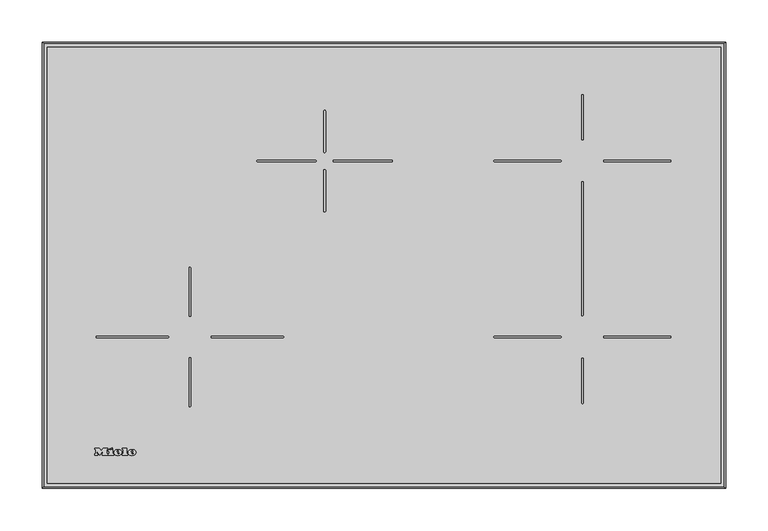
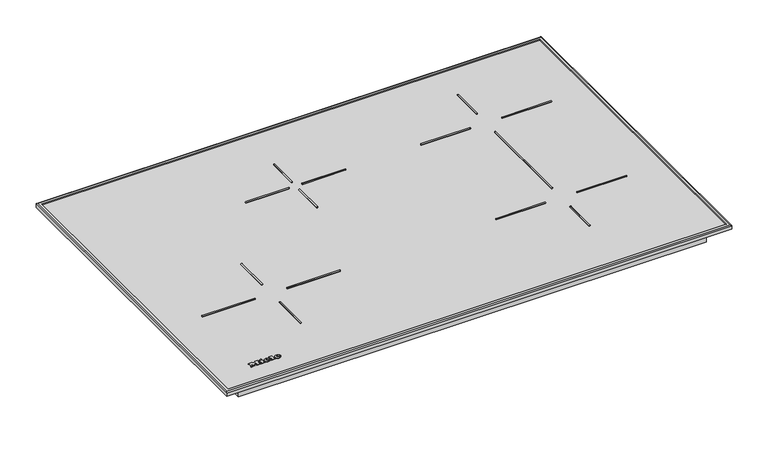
"""IFC4 building model written with IfcOpenShell, lengths in millimetres: proxy geometry, 12434420_TR_KM7373FR : 26737310_TR_12434420_KM7373FR."""

from ifc_helpers import new_model, si_unit, point, frame, frame_2d, origin, origin_with_axes, place, context, project, spatial, polyline, circle_curve, ellipse_curve, trimmed, segment, composite_curve, outline, extrude, source, transform, mapped, element, save
from ifc_brep_helpers import plane_surface, cylinder_surface, revolved_surface, extruded_surface, advanced_brep


def specialty_equipment_a5883740(model_context):
    return source(origin(), model_context, "Body", "SolidModel", [
        advanced_brep(
        [(-297.911984, 41.066, 5.0000007), (-297.911984, 41.874, 5.0000007), (-292.559984, 41.874, 5.0000007), (-301.871984, 41.874, 5.0000007), (-299.671984, 39.17, 5.0000007), (-292.695984, 41.066, 5.0000007), (-295.111984, 41.066, 5.0000007), (-297.015984, 40.17, 5.0000007), (-297.911984, 42.898, 5.0000007), (-297.911984, 43.77, 5.0000007), (-296.543984, 43.77, 5.0000007), (-296.543984, 42.898, 5.0000007), (-297.911984, 41.066, 4.0000007), (-297.015984, 40.17, 4.0000007), (-295.111984, 41.066, 4.0000007), (-292.695984, 41.066, 4.0000007), (-299.671984, 39.17, 4.0000007), (-301.871984, 41.874, 4.0000007), (-292.559984, 41.874, 4.0000007), (-297.911984, 41.874, 4.0000007), (-297.911984, 42.898, 4.0000007), (-296.543984, 42.898, 4.0000007), (-296.543984, 43.77, 4.0000007), (-297.911984, 43.77, 4.0000007)],
        [
            (0, 1),
            (1, 2),
            (2, 3, ellipse_curve(frame((-297.215984, 41.874, 5.0000007), z_axis=(0.0, 0.0, 1.0), x_axis=(-1.0, 0.0, 0.0)), 4.656, 3.848)),
            (3, 4, circle_curve(frame((-298.7759404, 42.146, 5.0000007), z_axis=(0.0, 0.0, 1.0), x_axis=(0.0, -1.0, 0.0)), 3.1079688)),
            (4, 5, circle_curve(frame((-297.3091904, 44.258, 5.0000007), z_axis=(0.0, 0.0, 1.0), x_axis=(0.0, -1.0, 0.0)), 5.6098607)),
            (5, 6),
            (6, 7, circle_curve(frame((-296.6249252, 41.81, 5.0000007), z_axis=(0.0, 0.0, -1.0), x_axis=(0.0, -1.0, 0.0)), 1.6859795)),
            (7, 0, circle_curve(frame((-297.015984, 41.066, 5.0000007), z_axis=(0.0, 0.0, -1.0), x_axis=(0.0, -1.0, 0.0)), 0.896)),
            (8, 9),
            (9, 10, circle_curve(frame((-297.227984, 43.77, 5.0000007), z_axis=(0.0, 0.0, -1.0), x_axis=(0.0, -1.0, 0.0)), 0.684)),
            (10, 11),
            (11, 8),
            (12, 13, circle_curve(frame((-297.015984, 41.066, 4.0000007), z_axis=(0.0, 0.0, 1.0), x_axis=(0.0, -1.0, 0.0)), 0.896)),
            (13, 14, circle_curve(frame((-296.6249252, 41.81, 4.0000007), z_axis=(0.0, 0.0, 1.0), x_axis=(0.0, -1.0, 0.0)), 1.6859795)),
            (14, 15),
            (15, 16, circle_curve(frame((-297.3091904, 44.258, 4.0000007), z_axis=(0.0, 0.0, -1.0), x_axis=(0.0, -1.0, 0.0)), 5.6098607)),
            (16, 17, circle_curve(frame((-298.7759404, 42.146, 4.0000007), z_axis=(0.0, 0.0, -1.0), x_axis=(0.0, -1.0, 0.0)), 3.1079688)),
            (17, 18, ellipse_curve(frame((-297.215984, 41.874, 4.0000007), z_axis=(0.0, 0.0, -1.0), x_axis=(-1.0, 0.0, 0.0)), 4.656, 3.848)),
            (18, 19),
            (19, 12),
            (20, 21),
            (21, 22),
            (22, 23, circle_curve(frame((-297.227984, 43.77, 4.0000007), z_axis=(0.0, 0.0, 1.0), x_axis=(0.0, -1.0, 0.0)), 0.684)),
            (23, 20),
            (0, 12),
            (19, 1),
            (18, 2),
            (5, 15),
            (14, 6),
            (17, 3),
            (13, 7),
            (16, 4),
            (8, 20),
            (23, 9),
            (22, 10),
            (21, 11),
        ],
        [
            plane_surface(frame((-297.911984, 41.874, 5.0000007), z_axis=(0.0, 0.0, 1.0), x_axis=(0.0, 1.0, 0.0))),
            plane_surface(frame((-297.911984, 41.874, 4.0000007), z_axis=(0.0, 0.0, -1.0), x_axis=(0.0, -1.0, 0.0))),
            plane_surface(frame((-297.911984, 41.066, 5.0000007), z_axis=(1.0, 0.0, 0.0), x_axis=(0.0, 0.0, -1.0))),
            plane_surface(frame((-297.911984, 41.874, 5.0000007), z_axis=(0.0, -1.0, 0.0), x_axis=(0.0, 0.0, -1.0))),
            plane_surface(frame((-292.695984, 41.066, 5.0000007), z_axis=(0.0, 1.0, 0.0), x_axis=(0.0, 0.0, -1.0))),
            extruded_surface(trimmed(ellipse_curve(frame((-297.215984, 41.874, 3.0000007), z_axis=(0.0, 0.0, 1.0), x_axis=(-1.0, 0.0, 0.0)), 4.656, 3.848), [point((-292.559984, 41.874, 3.0000007))], [point((-301.871984, 41.874, 3.0000007))], True, "CARTESIAN"), (0.0, 0.0, 1.0), 1.0),
            revolved_surface(polyline([(-296.6249252, 40.1240205, 4.0000007), (-296.6249252, 40.1240205, 5.0000007)]), (-296.6249252, 41.81, 4.0000007), (0.0, 0.0, -1.0)),
            revolved_surface(polyline([(-297.015984, 40.17, 4.0000007), (-297.015984, 40.17, 5.0000007)]), (-297.015984, 41.066, 4.0000007), (0.0, 0.0, -1.0)),
            cylinder_surface(frame((-298.7759404, 42.146, 4.0000007), z_axis=(0.0, 0.0, 1.0), x_axis=(0.0, -1.0, 0.0)), 3.1079688),
            cylinder_surface(frame((-297.3091904, 44.258, 4.0000007), z_axis=(0.0, 0.0, 1.0), x_axis=(0.0, -1.0, 0.0)), 5.6098607),
            plane_surface(frame((-297.911984, 42.898, 5.0000007), z_axis=(1.0, 0.0, 0.0), x_axis=(0.0, 0.0, -1.0))),
            revolved_surface(polyline([(-297.227984, 43.086000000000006, 4.0000007), (-297.227984, 43.086000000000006, 5.0000007)]), (-297.227984, 43.77, 4.0000007), (0.0, 0.0, -1.0)),
            plane_surface(frame((-296.543984, 43.77, 5.0000007), z_axis=(-1.0, 0.0, 0.0), x_axis=(0.0, 0.0, -1.0))),
            plane_surface(frame((-296.543984, 42.898, 5.0000007), z_axis=(0.0, 1.0, 0.0), x_axis=(0.0, 0.0, -1.0))),
        ],
        [
            (0, [[1, 2, 3, 4, 5, 6, 7, 8], [9, 10, 11, 12]]),
            (1, [[13, 14, 15, 16, 17, 18, 19, 20], [21, 22, 23, 24]]),
            (2, [[-1, 25, -20, 26]]),
            (3, [[-2, -26, -19, 27]]),
            (4, [[-6, 28, -15, 29]]),
            (5, [[-3, -27, -18, 30]]),
            (6, [[-7, -29, -14, 31]]),
            (7, [[-8, -31, -13, -25]]),
            (8, [[-4, -30, -17, 32]]),
            (9, [[-5, -32, -16, -28]]),
            (10, [[-9, 33, -24, 34]]),
            (11, [[-10, -34, -23, 35]]),
            (12, [[-11, -35, -22, 36]]),
            (13, [[-12, -36, -21, -33]]),
        ],
    ),
        advanced_brep(
        [(-314.607984, 41.066, 5.0000007), (-314.607984, 41.874, 5.0000007), (-309.255984, 41.874, 5.0000007), (-318.567984, 41.874, 5.0000007), (-316.367984, 39.17, 5.0000007), (-309.391984, 41.066, 5.0000007), (-311.807984, 41.066, 5.0000007), (-313.711984, 40.17, 5.0000007), (-314.607984, 42.898, 5.0000007), (-314.607984, 43.77, 5.0000007), (-313.239984, 43.77, 5.0000007), (-313.239984, 42.898, 5.0000007), (-314.607984, 41.066, 4.0000007), (-313.711984, 40.17, 4.0000007), (-311.807984, 41.066, 4.0000007), (-309.391984, 41.066, 4.0000007), (-316.367984, 39.17, 4.0000007), (-318.567984, 41.874, 4.0000007), (-309.255984, 41.874, 4.0000007), (-314.607984, 41.874, 4.0000007), (-314.607984, 42.898, 4.0000007), (-313.239984, 42.898, 4.0000007), (-313.239984, 43.77, 4.0000007), (-314.607984, 43.77, 4.0000007)],
        [
            (0, 1),
            (1, 2),
            (2, 3, ellipse_curve(frame((-313.911984, 41.874, 5.0000007), z_axis=(0.0, 0.0, 1.0), x_axis=(-1.0, 0.0, 0.0)), 4.656, 3.848)),
            (3, 4, circle_curve(frame((-315.4719404, 42.146, 5.0000007), z_axis=(0.0, 0.0, 1.0), x_axis=(0.0, -1.0, 0.0)), 3.1079688)),
            (4, 5, circle_curve(frame((-314.0051904, 44.258, 5.0000007), z_axis=(0.0, 0.0, 1.0), x_axis=(0.0, -1.0, 0.0)), 5.6098607)),
            (5, 6),
            (6, 7, circle_curve(frame((-313.3209252, 41.81, 5.0000007), z_axis=(0.0, 0.0, -1.0), x_axis=(0.0, -1.0, 0.0)), 1.6859795)),
            (7, 0, circle_curve(frame((-313.711984, 41.066, 5.0000007), z_axis=(0.0, 0.0, -1.0), x_axis=(0.0, -1.0, 0.0)), 0.896)),
            (8, 9),
            (9, 10, circle_curve(frame((-313.923984, 43.77, 5.0000007), z_axis=(0.0, 0.0, -1.0), x_axis=(0.0, -1.0, 0.0)), 0.684)),
            (10, 11),
            (11, 8),
            (12, 13, circle_curve(frame((-313.711984, 41.066, 4.0000007), z_axis=(0.0, 0.0, 1.0), x_axis=(0.0, -1.0, 0.0)), 0.896)),
            (13, 14, circle_curve(frame((-313.3209252, 41.81, 4.0000007), z_axis=(0.0, 0.0, 1.0), x_axis=(0.0, -1.0, 0.0)), 1.6859795)),
            (14, 15),
            (15, 16, circle_curve(frame((-314.0051904, 44.258, 4.0000007), z_axis=(0.0, 0.0, -1.0), x_axis=(0.0, -1.0, 0.0)), 5.6098607)),
            (16, 17, circle_curve(frame((-315.4719404, 42.146, 4.0000007), z_axis=(0.0, 0.0, -1.0), x_axis=(0.0, -1.0, 0.0)), 3.1079688)),
            (17, 18, ellipse_curve(frame((-313.911984, 41.874, 4.0000007), z_axis=(0.0, 0.0, -1.0), x_axis=(-1.0, 0.0, 0.0)), 4.656, 3.848)),
            (18, 19),
            (19, 12),
            (20, 21),
            (21, 22),
            (22, 23, circle_curve(frame((-313.923984, 43.77, 4.0000007), z_axis=(0.0, 0.0, 1.0), x_axis=(0.0, -1.0, 0.0)), 0.684)),
            (23, 20),
            (0, 12),
            (19, 1),
            (18, 2),
            (5, 15),
            (14, 6),
            (17, 3),
            (13, 7),
            (16, 4),
            (8, 20),
            (23, 9),
            (22, 10),
            (21, 11),
        ],
        [
            plane_surface(frame((-314.607984, 41.874, 5.0000007), z_axis=(0.0, 0.0, 1.0), x_axis=(0.0, 1.0, 0.0))),
            plane_surface(frame((-314.607984, 41.874, 4.0000007), z_axis=(0.0, 0.0, -1.0), x_axis=(0.0, -1.0, 0.0))),
            plane_surface(frame((-314.607984, 41.066, 5.0000007), z_axis=(1.0, 0.0, 0.0), x_axis=(0.0, 0.0, -1.0))),
            plane_surface(frame((-314.607984, 41.874, 5.0000007), z_axis=(0.0, -1.0, 0.0), x_axis=(0.0, 0.0, -1.0))),
            plane_surface(frame((-309.391984, 41.066, 5.0000007), z_axis=(0.0, 1.0, 0.0), x_axis=(0.0, 0.0, -1.0))),
            extruded_surface(trimmed(ellipse_curve(frame((-313.911984, 41.874, 3.0000007), z_axis=(0.0, 0.0, 1.0), x_axis=(-1.0, 0.0, 0.0)), 4.656, 3.848), [point((-309.255984, 41.874, 3.0000007))], [point((-318.567984, 41.874, 3.0000007))], True, "CARTESIAN"), (0.0, 0.0, 1.0), 1.0),
            revolved_surface(polyline([(-313.3209252, 40.1240205, 4.0000007), (-313.3209252, 40.1240205, 5.0000007)]), (-313.3209252, 41.81, 4.0000007), (0.0, 0.0, -1.0)),
            revolved_surface(polyline([(-313.711984, 40.17, 4.0000007), (-313.711984, 40.17, 5.0000007)]), (-313.711984, 41.066, 4.0000007), (0.0, 0.0, -1.0)),
            cylinder_surface(frame((-315.4719404, 42.146, 4.0000007), z_axis=(0.0, 0.0, 1.0), x_axis=(0.0, -1.0, 0.0)), 3.1079688),
            cylinder_surface(frame((-314.0051904, 44.258, 4.0000007), z_axis=(0.0, 0.0, 1.0), x_axis=(0.0, -1.0, 0.0)), 5.6098607),
            plane_surface(frame((-314.607984, 42.898, 5.0000007), z_axis=(1.0, 0.0, 0.0), x_axis=(0.0, 0.0, -1.0))),
            revolved_surface(polyline([(-313.923984, 43.086000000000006, 4.0000007), (-313.923984, 43.086000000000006, 5.0000007)]), (-313.923984, 43.77, 4.0000007), (0.0, 0.0, -1.0)),
            plane_surface(frame((-313.239984, 43.77, 5.0000007), z_axis=(-1.0, 0.0, 0.0), x_axis=(0.0, 0.0, -1.0))),
            plane_surface(frame((-313.239984, 42.898, 5.0000007), z_axis=(0.0, 1.0, 0.0), x_axis=(0.0, 0.0, -1.0))),
        ],
        [
            (0, [[1, 2, 3, 4, 5, 6, 7, 8], [9, 10, 11, 12]]),
            (1, [[13, 14, 15, 16, 17, 18, 19, 20], [21, 22, 23, 24]]),
            (2, [[-1, 25, -20, 26]]),
            (3, [[-2, -26, -19, 27]]),
            (4, [[-6, 28, -15, 29]]),
            (5, [[-3, -27, -18, 30]]),
            (6, [[-7, -29, -14, 31]]),
            (7, [[-8, -31, -13, -25]]),
            (8, [[-4, -30, -17, 32]]),
            (9, [[-5, -32, -16, -28]]),
            (10, [[-9, 33, -24, 34]]),
            (11, [[-10, -34, -23, 35]]),
            (12, [[-11, -35, -22, 36]]),
            (13, [[-12, -36, -21, -33]]),
        ],
    ),
        extrude(outline(polyline([(-323.351984, 46.698), (-320.631984, 47.962), (-320.031984, 46.666), (-322.743984, 45.402), (-323.351984, 46.698)])), frame((0.0, 0.0, 4.0000007), z_axis=(0.0, 0.0, 1.0), x_axis=(1.0, 0.0, 0.0)), (0.0, 0.0, 1.0), 1.0),
        extrude(outline(polyline([(-325.327984, 45.226), (-319.943984, 45.226), (-319.943984, 40.514), (-319.015984, 40.514), (-319.015984, 39.17), (-325.327984, 39.17), (-325.327984, 40.514), (-324.375984, 40.514), (-324.375984, 43.794), (-325.327984, 43.794), (-325.327984, 45.226)])), frame((0.0, 0.0, 4.0000007), z_axis=(0.0, 0.0, 1.0), x_axis=(1.0, 0.0, 0.0)), (0.0, 0.0, 1.0), 1.0),
        extrude(outline(polyline([(-308.807984, 45.866), (-308.807984, 47.17), (-303.303984, 47.17), (-303.303984, 40.514), (-302.319984, 40.514), (-302.319984, 39.17), (-308.807984, 39.17), (-308.807984, 40.514), (-307.847984, 40.514), (-307.847984, 45.866), (-308.807984, 45.866)])), frame((0.0, 0.0, 4.0000007), z_axis=(0.0, 0.0, 1.0), x_axis=(1.0, 0.0, 0.0)), (0.0, 0.0, 1.0), 1.0),
        extrude(outline(polyline([(-341.271984, 45.866), (-341.271984, 47.17), (-335.695984, 47.17), (-333.351984, 44.17), (-331.015984, 47.17), (-326.143984, 47.17), (-326.143984, 45.866), (-327.159984, 45.866), (-327.159984, 40.514), (-326.143984, 40.514), (-326.143984, 39.17), (-332.527984, 39.17), (-332.527984, 40.514), (-331.543984, 40.514), (-331.543984, 43.9852223), (-335.135984, 39.17), (-338.711984, 43.9171247), (-338.711984, 40.514), (-337.751984, 40.514), (-337.751984, 39.17), (-341.271984, 39.17), (-341.271984, 40.514), (-340.303984, 40.514), (-340.303984, 45.866), (-341.271984, 45.866)])), frame((0.0, 0.0, 4.0000007), z_axis=(0.0, 0.0, 1.0), x_axis=(1.0, 0.0, 0.0)), (0.0, 0.0, 1.0), 1.0),
        extrude(outline(composite_curve([segment(polyline([(-69.0, 375.0), (-69.0, 327.0)]), True, "CONTINUOUS"), segment(trimmed(circle_curve(frame_2d((-70.0, 327.0)), 1.0), [point((-69.0, 327.0))], [point((-71.0, 327.0))], False, "CARTESIAN"), True, "CONTINUOUS"), segment(polyline([(-71.0, 327.0), (-71.0, 375.0)]), True, "CONTINUOUS"), segment(trimmed(circle_curve(frame_2d((-70.0, 375.0)), 1.0), [point((-71.0, 375.0))], [point((-69.0, 375.0))], False, "CARTESIAN"), True, "CONTINUOUS")], self_intersect=False)), frame((0.0, 0.0, 4.0000007), z_axis=(0.0, 0.0, 1.0), x_axis=(1.0, 0.0, 0.0)), (0.0, 0.0, 1.0), 1.0),
        extrude(outline(composite_curve([segment(trimmed(circle_curve(frame_2d((-59.0, 386.0)), 1.0), [point((-59.0, 385.0))], [point((-59.0, 387.0))], False, "CARTESIAN"), True, "CONTINUOUS"), segment(polyline([(-59.0, 387.0), (9.0, 387.0)]), True, "CONTINUOUS"), segment(trimmed(circle_curve(frame_2d((9.0, 386.0)), 1.0), [point((9.0, 387.0))], [point((9.0, 385.0))], False, "CARTESIAN"), True, "CONTINUOUS"), segment(polyline([(9.0, 385.0), (-59.0, 385.0)]), True, "CONTINUOUS")], self_intersect=False)), frame((0.0, 0.0, 4.0000007), z_axis=(0.0, 0.0, 1.0), x_axis=(1.0, 0.0, 0.0)), (0.0, 0.0, 1.0), 1.0),
        extrude(outline(composite_curve([segment(polyline([(-228.0, 153.2492439), (-228.0, 97.2492439)]), True, "CONTINUOUS"), segment(trimmed(circle_curve(frame_2d((-229.0, 97.2492439)), 1.0), [point((-228.0, 97.2492439))], [point((-230.0, 97.2492439))], False, "CARTESIAN"), True, "CONTINUOUS"), segment(polyline([(-230.0, 97.2492439), (-230.0, 153.2492439)]), True, "CONTINUOUS"), segment(trimmed(circle_curve(frame_2d((-229.0, 153.2492439)), 1.0), [point((-230.0, 153.2492439))], [point((-228.0, 153.2492439))], False, "CARTESIAN"), True, "CONTINUOUS")], self_intersect=False)), frame((0.0, 0.0, 4.0000007), z_axis=(0.0, 0.0, 1.0), x_axis=(1.0, 0.0, 0.0)), (0.0, 0.0, 1.0), 1.0),
        extrude(outline(composite_curve([segment(trimmed(circle_curve(frame_2d((-203.0, 178.5)), 1.0), [point((-203.0, 177.5))], [point((-203.0, 179.5))], False, "CARTESIAN"), True, "CONTINUOUS"), segment(polyline([(-203.0, 179.5), (-119.5, 179.5)]), True, "CONTINUOUS"), segment(trimmed(circle_curve(frame_2d((-119.5, 178.5)), 1.0), [point((-119.5, 179.5))], [point((-119.5, 177.5))], False, "CARTESIAN"), True, "CONTINUOUS"), segment(polyline([(-119.5, 177.5), (-203.0, 177.5)]), True, "CONTINUOUS")], self_intersect=False)), frame((0.0, 0.0, 4.0000007), z_axis=(0.0, 0.0, 1.0), x_axis=(1.0, 0.0, 0.0)), (0.0, 0.0, 1.0), 1.0),
        extrude(outline(composite_curve([segment(polyline([(233.0, 204.5123919), (233.0, 360.739463)]), True, "CONTINUOUS"), segment(trimmed(circle_curve(frame_2d((234.0, 360.739463)), 1.0), [point((233.0, 360.739463))], [point((235.0, 360.739463))], False, "CARTESIAN"), True, "CONTINUOUS"), segment(polyline([(235.0, 360.739463), (235.0, 204.5123919)]), True, "CONTINUOUS"), segment(trimmed(circle_curve(frame_2d((234.0, 204.5123919)), 1.0), [point((235.0, 204.5123919))], [point((233.0, 204.5123919))], False, "CARTESIAN"), True, "CONTINUOUS")], self_intersect=False)), frame((0.0, 0.0, 4.0000007), z_axis=(0.0, 0.0, 1.0), x_axis=(1.0, 0.0, 0.0)), (0.0, 0.0, 1.0), 1.0),
        extrude(outline(composite_curve([segment(trimmed(circle_curve(frame_2d((234.0, 152.520008)), 1.0), [point((233.0, 152.520008))], [point((235.0, 152.520008))], False, "CARTESIAN"), True, "CONTINUOUS"), segment(polyline([(235.0, 152.520008), (235.0, 100.9135338)]), True, "CONTINUOUS"), segment(trimmed(circle_curve(frame_2d((234.0, 100.9135338)), 1.0), [point((235.0, 100.9135338))], [point((233.0, 100.9135338))], False, "CARTESIAN"), True, "CONTINUOUS"), segment(polyline([(233.0, 100.9135338), (233.0, 152.520008)]), True, "CONTINUOUS")], self_intersect=False)), frame((0.0, 0.0, 4.0000007), z_axis=(0.0, 0.0, 1.0), x_axis=(1.0, 0.0, 0.0)), (0.0, 0.0, 1.0), 1.0),
        extrude(outline(composite_curve([segment(trimmed(circle_curve(frame_2d((234.0, 411.979992)), 1.0), [point((235.0, 411.979992))], [point((233.0, 411.979992))], False, "CARTESIAN"), True, "CONTINUOUS"), segment(polyline([(233.0, 411.979992), (233.0, 463.401697)]), True, "CONTINUOUS"), segment(trimmed(circle_curve(frame_2d((234.0, 463.401697)), 1.0), [point((233.0, 463.401697))], [point((235.0, 463.401697))], False, "CARTESIAN"), True, "CONTINUOUS"), segment(polyline([(235.0, 463.401697), (235.0, 411.979992)]), True, "CONTINUOUS")], self_intersect=False)), frame((0.0, 0.0, 4.0000007), z_axis=(0.0, 0.0, 1.0), x_axis=(1.0, 0.0, 0.0)), (0.0, 0.0, 1.0), 1.0),
        extrude(outline(composite_curve([segment(trimmed(circle_curve(frame_2d((259.979992, 386.0)), 1.0), [point((259.979992, 385.0))], [point((259.979992, 387.0))], False, "CARTESIAN"), True, "CONTINUOUS"), segment(polyline([(259.979992, 387.0), (337.401697, 387.0)]), True, "CONTINUOUS"), segment(trimmed(circle_curve(frame_2d((337.401697, 386.0)), 1.0), [point((337.401697, 387.0))], [point((337.401697, 385.0))], False, "CARTESIAN"), True, "CONTINUOUS"), segment(polyline([(337.401697, 385.0), (259.979992, 385.0)]), True, "CONTINUOUS")], self_intersect=False)), frame((0.0, 0.0, 4.0000007), z_axis=(0.0, 0.0, 1.0), x_axis=(1.0, 0.0, 0.0)), (0.0, 0.0, 1.0), 1.0),
        extrude(outline(composite_curve([segment(polyline([(208.020008, 385.0), (130.598303, 385.0)]), True, "CONTINUOUS"), segment(trimmed(circle_curve(frame_2d((130.598303, 386.0)), 1.0), [point((130.598303, 385.0))], [point((130.598303, 387.0))], False, "CARTESIAN"), True, "CONTINUOUS"), segment(polyline([(130.598303, 387.0), (208.020008, 387.0)]), True, "CONTINUOUS"), segment(trimmed(circle_curve(frame_2d((208.020008, 386.0)), 1.0), [point((208.020008, 387.0))], [point((208.020008, 385.0))], False, "CARTESIAN"), True, "CONTINUOUS")], self_intersect=False)), frame((0.0, 0.0, 4.0000007), z_axis=(0.0, 0.0, 1.0), x_axis=(1.0, 0.0, 0.0)), (0.0, 0.0, 1.0), 1.0),
        extrude(outline(composite_curve([segment(trimmed(circle_curve(frame_2d((259.979992, 178.5)), 1.0), [point((259.979992, 177.5))], [point((259.979992, 179.5))], False, "CARTESIAN"), True, "CONTINUOUS"), segment(polyline([(259.979992, 179.5), (337.401697, 179.5)]), True, "CONTINUOUS"), segment(trimmed(circle_curve(frame_2d((337.401697, 178.5)), 1.0), [point((337.401697, 179.5))], [point((337.401697, 177.5))], False, "CARTESIAN"), True, "CONTINUOUS"), segment(polyline([(337.401697, 177.5), (259.979992, 177.5)]), True, "CONTINUOUS")], self_intersect=False)), frame((0.0, 0.0, 4.0000007), z_axis=(0.0, 0.0, 1.0), x_axis=(1.0, 0.0, 0.0)), (0.0, 0.0, 1.0), 1.0),
        extrude(outline(composite_curve([segment(polyline([(208.020008, 177.5), (130.598303, 177.5)]), True, "CONTINUOUS"), segment(trimmed(circle_curve(frame_2d((130.598303, 178.5)), 1.0), [point((130.598303, 177.5))], [point((130.598303, 179.5))], False, "CARTESIAN"), True, "CONTINUOUS"), segment(polyline([(130.598303, 179.5), (208.020008, 179.5)]), True, "CONTINUOUS"), segment(trimmed(circle_curve(frame_2d((208.020008, 178.5)), 1.0), [point((208.020008, 179.5))], [point((208.020008, 177.5))], False, "CARTESIAN"), True, "CONTINUOUS")], self_intersect=False)), frame((0.0, 0.0, 4.0000007), z_axis=(0.0, 0.0, 1.0), x_axis=(1.0, 0.0, 0.0)), (0.0, 0.0, 1.0), 1.0),
        extrude(outline(composite_curve([segment(polyline([(-255.0, 177.5), (-338.5, 177.5)]), True, "CONTINUOUS"), segment(trimmed(circle_curve(frame_2d((-338.5, 178.5)), 1.0), [point((-338.5, 177.5))], [point((-338.5, 179.5))], False, "CARTESIAN"), True, "CONTINUOUS"), segment(polyline([(-338.5, 179.5), (-255.0, 179.5)]), True, "CONTINUOUS"), segment(trimmed(circle_curve(frame_2d((-255.0, 178.5)), 1.0), [point((-255.0, 179.5))], [point((-255.0, 177.5))], False, "CARTESIAN"), True, "CONTINUOUS")], self_intersect=False)), frame((0.0, 0.0, 4.0000007), z_axis=(0.0, 0.0, 1.0), x_axis=(1.0, 0.0, 0.0)), (0.0, 0.0, 1.0), 1.0),
        extrude(outline(composite_curve([segment(trimmed(circle_curve(frame_2d((-229.0, 203.7507561)), 1.0), [point((-228.0, 203.7507561))], [point((-230.0, 203.7507561))], False, "CARTESIAN"), True, "CONTINUOUS"), segment(polyline([(-230.0, 203.7507561), (-230.0, 259.7507561)]), True, "CONTINUOUS"), segment(trimmed(circle_curve(frame_2d((-229.0, 259.7507561)), 1.0), [point((-230.0, 259.7507561))], [point((-228.0, 259.7507561))], False, "CARTESIAN"), True, "CONTINUOUS"), segment(polyline([(-228.0, 259.7507561), (-228.0, 203.7507561)]), True, "CONTINUOUS")], self_intersect=False)), frame((0.0, 0.0, 4.0000007), z_axis=(0.0, 0.0, 1.0), x_axis=(1.0, 0.0, 0.0)), (0.0, 0.0, 1.0), 1.0),
        extrude(outline(composite_curve([segment(trimmed(circle_curve(frame_2d((-70.0, 397.0)), 1.0), [point((-69.0, 397.0))], [point((-71.0, 397.0))], False, "CARTESIAN"), True, "CONTINUOUS"), segment(polyline([(-71.0, 397.0), (-71.0, 445.0)]), True, "CONTINUOUS"), segment(trimmed(circle_curve(frame_2d((-70.0, 445.0)), 1.0), [point((-71.0, 445.0))], [point((-69.0, 445.0))], False, "CARTESIAN"), True, "CONTINUOUS"), segment(polyline([(-69.0, 445.0), (-69.0, 397.0)]), True, "CONTINUOUS")], self_intersect=False)), frame((0.0, 0.0, 4.0000007), z_axis=(0.0, 0.0, 1.0), x_axis=(1.0, 0.0, 0.0)), (0.0, 0.0, 1.0), 1.0),
        extrude(outline(composite_curve([segment(polyline([(-81.0, 385.0), (-149.0, 385.0)]), True, "CONTINUOUS"), segment(trimmed(circle_curve(frame_2d((-149.0, 386.0)), 1.0), [point((-149.0, 385.0))], [point((-149.0, 387.0))], False, "CARTESIAN"), True, "CONTINUOUS"), segment(polyline([(-149.0, 387.0), (-81.0, 387.0)]), True, "CONTINUOUS"), segment(trimmed(circle_curve(frame_2d((-81.0, 386.0)), 1.0), [point((-81.0, 387.0))], [point((-81.0, 385.0))], False, "CARTESIAN"), True, "CONTINUOUS")], self_intersect=False)), frame((0.0, 0.0, 4.0000007), z_axis=(0.0, 0.0, 1.0), x_axis=(1.0, 0.0, 0.0)), (0.0, 0.0, 1.0), 1.0),
        advanced_brep(
        [(403.0, 526.0, 0.0), (403.0, 526.0, 5.5271728), (403.0, 0.0, 5.5271728), (403.0, 0.0, 0.0), (401.5271728, 524.5271728, 5.8817013), (401.5271728, 524.5271728, 0.0), (401.5271728, 1.4728272, 0.0), (401.5271728, 1.4728272, 5.8817013), (397.2139587, 520.2139587, 7.0), (397.2139587, 520.2139587, 5.8817013), (397.2139587, 5.7860413, 5.8817013), (397.2139587, 5.7860413, 7.0), (401.5271728, 524.5271728, 7.0), (401.5271728, 1.4728272, 7.0), (-403.0, 0.0, 5.5271728), (-403.0, 0.0, 0.0), (-401.5271728, 1.4728272, 0.0), (-401.5271728, 1.4728272, 5.8817013), (-397.2139587, 5.7860413, 5.8817013), (-397.2139587, 5.7860413, 7.0), (-401.5271728, 1.4728272, 7.0), (-403.0, 526.0, 5.5271728), (-403.0, 526.0, 0.0), (-401.5271728, 524.5271728, 0.0), (-401.5271728, 524.5271728, 5.8817013), (-397.2139587, 520.2139587, 5.8817013), (-397.2139587, 520.2139587, 7.0), (-401.5271728, 524.5271728, 7.0)],
        [
            (0, 1),
            (1, 2),
            (2, 3),
            (3, 0),
            (4, 5),
            (5, 6),
            (6, 7),
            (7, 4),
            (8, 9),
            (9, 10),
            (10, 11),
            (11, 8),
            (1, 12, ellipse_curve(frame((401.5271728, 524.5271728, 5.5271728), z_axis=(0.7071067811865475, -0.7071067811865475, 0.0), x_axis=(0.7071067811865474, 0.7071067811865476, 0.0)), 2.0828921, 1.4728272)),
            (12, 13),
            (13, 2, ellipse_curve(frame((401.5271728, 1.4728272, 5.5271728), z_axis=(0.7071067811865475, 0.7071067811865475, 0.0), x_axis=(-0.7071067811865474, 0.7071067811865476, 0.0)), 2.0828921, 1.4728272)),
            (2, 14),
            (14, 15),
            (15, 3),
            (6, 16),
            (16, 17),
            (17, 7),
            (10, 18),
            (18, 19),
            (19, 11),
            (13, 20),
            (20, 14, ellipse_curve(frame((-401.5271728, 1.4728272, 5.5271728), z_axis=(0.7071067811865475, -0.7071067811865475, 0.0), x_axis=(0.7071067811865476, 0.7071067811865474, 0.0)), 2.0828921, 1.4728272)),
            (14, 21),
            (21, 22),
            (22, 15),
            (16, 23),
            (23, 24),
            (24, 17),
            (18, 25),
            (25, 26),
            (26, 19),
            (20, 27),
            (27, 21, ellipse_curve(frame((-401.5271728, 524.5271728, 5.5271728), z_axis=(-0.7071067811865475, -0.7071067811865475, 0.0), x_axis=(0.7071067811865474, -0.7071067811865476, 0.0)), 2.0828921, 1.4728272)),
            (21, 1),
            (0, 22),
            (5, 23),
            (4, 24),
            (9, 25),
            (8, 26),
            (12, 27),
        ],
        [
            plane_surface(frame((403.0, 526.0, 5.5271728), z_axis=(1.0, 0.0, 0.0), x_axis=(0.0, -1.0, 0.0))),
            plane_surface(frame((401.5271728, 524.5271728, 0.0), z_axis=(-1.0, 0.0, 0.0), x_axis=(0.0, -1.0, 0.0))),
            plane_surface(frame((397.2139587, 520.2139587, 5.8817013), z_axis=(-1.0, 0.0, 0.0), x_axis=(0.0, -1.0, 0.0))),
            cylinder_surface(frame((401.5271728, 526.0, 5.5271728), z_axis=(0.0, 1.0, 0.0), x_axis=(1.0, 0.0, 0.0)), 1.4728272),
            plane_surface(frame((403.0, 0.0, 5.5271728), z_axis=(0.0, -1.0, 0.0), x_axis=(-1.0, 0.0, 0.0))),
            plane_surface(frame((401.5271728, 1.4728272, 0.0), z_axis=(0.0, 1.0, 0.0), x_axis=(-1.0, 0.0, 0.0))),
            plane_surface(frame((397.2139587, 5.7860413, 5.8817013), z_axis=(0.0, 1.0, 0.0), x_axis=(-1.0, 0.0, 0.0))),
            cylinder_surface(frame((403.0, 1.4728272, 5.5271728), z_axis=(1.0, 0.0, 0.0), x_axis=(0.0, -1.0, 0.0)), 1.4728272),
            plane_surface(frame((-403.0, 0.0, 5.5271728), z_axis=(-1.0, 0.0, 0.0), x_axis=(0.0, 1.0, 0.0))),
            plane_surface(frame((-401.5271728, 1.4728272, 0.0), z_axis=(1.0, 0.0, 0.0), x_axis=(0.0, 1.0, 0.0))),
            plane_surface(frame((-397.2139587, 5.7860413, 5.8817013), z_axis=(1.0, 0.0, 0.0), x_axis=(0.0, 1.0, 0.0))),
            cylinder_surface(frame((-401.5271728, 0.0, 5.5271728), z_axis=(0.0, -1.0, 0.0), x_axis=(-1.0, 0.0, 0.0)), 1.4728272),
            plane_surface(frame((-403.0, 526.0, 5.5271728), z_axis=(0.0, 1.0, 0.0), x_axis=(1.0, 0.0, 0.0))),
            plane_surface(frame((-403.0, 526.0, 0.0), z_axis=(0.0, 0.0, -1.0), x_axis=(1.0, 0.0, 0.0))),
            plane_surface(frame((-401.5271728, 524.5271728, 0.0), z_axis=(0.0, -1.0, 0.0), x_axis=(1.0, 0.0, 0.0))),
            plane_surface(frame((-401.5271728, 524.5271728, 5.8817013), z_axis=(0.0, 0.0, -1.0), x_axis=(1.0, 0.0, 0.0))),
            plane_surface(frame((-397.2139587, 520.2139587, 5.8817013), z_axis=(0.0, -1.0, 0.0), x_axis=(1.0, 0.0, 0.0))),
            plane_surface(frame((-397.2139587, 520.2139587, 7.0), z_axis=(0.0, 0.0, 1.0), x_axis=(1.0, 0.0, 0.0))),
            cylinder_surface(frame((-403.0, 524.5271728, 5.5271728), z_axis=(-1.0, 0.0, 0.0), x_axis=(0.0, 1.0, 0.0)), 1.4728272),
        ],
        [
            (0, [[1, 2, 3, 4]]),
            (1, [[5, 6, 7, 8]]),
            (2, [[9, 10, 11, 12]]),
            (3, [[13, 14, 15, -2]]),
            (4, [[-3, 16, 17, 18]]),
            (5, [[-7, 19, 20, 21]]),
            (6, [[-11, 22, 23, 24]]),
            (7, [[-15, 25, 26, -16]]),
            (8, [[-17, 27, 28, 29]]),
            (9, [[-20, 30, 31, 32]]),
            (10, [[-23, 33, 34, 35]]),
            (11, [[-26, 36, 37, -27]]),
            (12, [[-28, 38, -1, 39]]),
            (13, [[-18, -29, -39, -4], [40, -30, -19, -6]]),
            (14, [[-31, -40, -5, 41]]),
            (15, [[-21, -32, -41, -8], [42, -33, -22, -10]]),
            (16, [[-34, -42, -9, 43]]),
            (17, [[44, -36, -25, -14], [-24, -35, -43, -12]]),
            (18, [[-37, -44, -13, -38]]),
        ],
    ),
        extrude(outline(polyline([(231.7938197, 483.0), (231.7938197, 365.7202614), (234.0, 365.7202614), (234.0, 79.0), (-64.0, 79.0), (-64.0, 483.0), (231.7938197, 483.0)])), frame((0.0, 0.0, -49.1723575), z_axis=(0.0, 0.0, 1.0), x_axis=(1.0, 0.0, 0.0)), (0.0, 0.0, 1.0), 26.1723575),
        extrude(outline(polyline([(373.0, 507.0), (373.0, 19.0), (-373.0, 19.0), (-373.0, 507.0), (373.0, 507.0)])), frame((0.0, 0.0, -23.0), z_axis=(0.0, 0.0, 1.0), x_axis=(1.0, 0.0, 0.0)), (0.0, 0.0, 1.0), 23.0),
        extrude(outline(polyline([(399.25, 523.0), (399.25, 3.0), (-399.25, 3.0), (-399.25, 523.0), (399.25, 523.0)])), origin_with_axes(), (0.0, 0.0, 1.0), 4.0000007),
        extrude(outline(polyline([(234.6227397, 386.1708126), (242.0, 386.1708126), (242.0, 384.9151088), (235.8784436, 384.9151088), (235.8784436, 381.6188861), (241.529111, 381.6188861), (241.529111, 380.3631822), (235.8784436, 380.3631822), (235.8784436, 377.3808855), (241.843037, 377.3808855), (241.843037, 376.1251816), (234.6227397, 376.1251816), (234.6227397, 386.1708126)])), frame((0.0, 0.0, -55.9814925), z_axis=(0.0, 0.0, 1.0), x_axis=(1.0, 0.0, 0.0)), (0.0, 0.0, 1.0), 1.0),
        extrude(outline(polyline([(243.8835558, 386.1708126), (250.1620752, 386.1708126), (250.1620752, 384.9151088), (245.1392597, 384.9151088), (245.1392597, 376.1251816), (243.8835558, 376.1251816), (243.8835558, 386.1708126)])), frame((0.0, 0.0, -55.9814925), z_axis=(0.0, 0.0, 1.0), x_axis=(1.0, 0.0, 0.0)), (0.0, 0.0, 1.0), 1.0),
        advanced_brep(
        [(219.0, 381.1708126, -42.9814925), (219.0, 381.1708126, -26.9814925), (233.7476293, 381.1708126, -42.9814925), (249.7476293, 381.1708126, -26.9814925), (233.7476293, 381.1708126, -54.9814925), (249.7476293, 381.1708126, -54.9814925)],
        [
            (0, 1, circle_curve(frame((219.0, 381.1708126, -34.9814925), z_axis=(-1.0, 0.0, 0.0), x_axis=(0.0, 0.0, 1.0)), 8.0)),
            (1, 0, circle_curve(frame((219.0, 381.1708126, -34.9814925), z_axis=(-1.0, 0.0, 0.0), x_axis=(0.0, 0.0, 1.0)), 8.0)),
            (0, 2),
            (2, 3, ellipse_curve(frame((241.7476293, 381.1708126, -34.9814925), z_axis=(-0.7071067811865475, 0.0, 0.7071067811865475), x_axis=(-0.7071067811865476, 0.0, -0.7071067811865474)), 11.3137085, 8.0)),
            (3, 1),
            (3, 2, ellipse_curve(frame((241.7476293, 381.1708126, -34.9814925), z_axis=(-0.7071067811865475, 0.0, 0.7071067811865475), x_axis=(-0.7071067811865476, 0.0, -0.7071067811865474)), 11.3137085, 8.0)),
            (4, 5, circle_curve(frame((241.7476293, 381.1708126, -54.9814925), z_axis=(0.0, 0.0, -1.0), x_axis=(1.0, 0.0, 0.0)), 8.0)),
            (5, 4, circle_curve(frame((241.7476293, 381.1708126, -54.9814925), z_axis=(0.0, 0.0, -1.0), x_axis=(1.0, 0.0, 0.0)), 8.0)),
            (2, 4),
            (5, 3),
        ],
        [
            plane_surface(frame((219.0, 0.0, -34.9814925), z_axis=(-1.0, 0.0, 0.0), x_axis=(0.0, -1.0, 0.0))),
            cylinder_surface(frame((219.0, 381.1708126, -34.9814925), z_axis=(-1.0, 0.0, 0.0), x_axis=(0.0, 0.0, 1.0)), 8.0),
            plane_surface(frame((241.7476293, 0.0, -54.9814925), z_axis=(0.0, 0.0, -1.0), x_axis=(0.0, -1.0, 0.0))),
            cylinder_surface(frame((241.7476293, 381.1708126, -34.9814925), z_axis=(0.0, 0.0, 1.0), x_axis=(1.0, 0.0, 0.0)), 8.0),
        ],
        [
            (0, [[1, 2]]),
            (1, [[-1, 3, 4, 5]]),
            (1, [[-2, -5, 6, -3]]),
            (2, [[7, 8]]),
            (3, [[-4, 9, -8, 10]]),
            (3, [[-6, -10, -7, -9]]),
        ],
    ),
    ])


if __name__ == "__main__":
    model = new_model("IFC4")
    model_context = context("Model", 3, world=origin())
    ifc_project = project(units=[si_unit("LENGTHUNIT", "METRE", prefix="MILLI")], contexts=[model_context])
    site = spatial("IfcSite", under=ifc_project)
    building = spatial("IfcBuilding", under=site)
    placement = place(None, origin())
    specialty_equipment_shape = specialty_equipment_a5883740(model_context)
    element("IfcBuildingElementProxy", 1, Name="12434420_TR_KM7373FR : 26737310_TR_12434420_KM7373FR", ObjectType="12434420_TR_KM7373FR : 26737310_TR_12434420_KM7373FR", at=placement, inside=building, context=model_context, shape_type="MappedRepresentation", body=[
        mapped(specialty_equipment_shape, transform((0.0, 0.0, 0.0), x_axis=(1.0, 0.0, 0.0), y_axis=(0.0, 1.0, 0.0), z_axis=(0.0, 0.0, 1.0))),
    ])
    save(model, "model.ifc")
